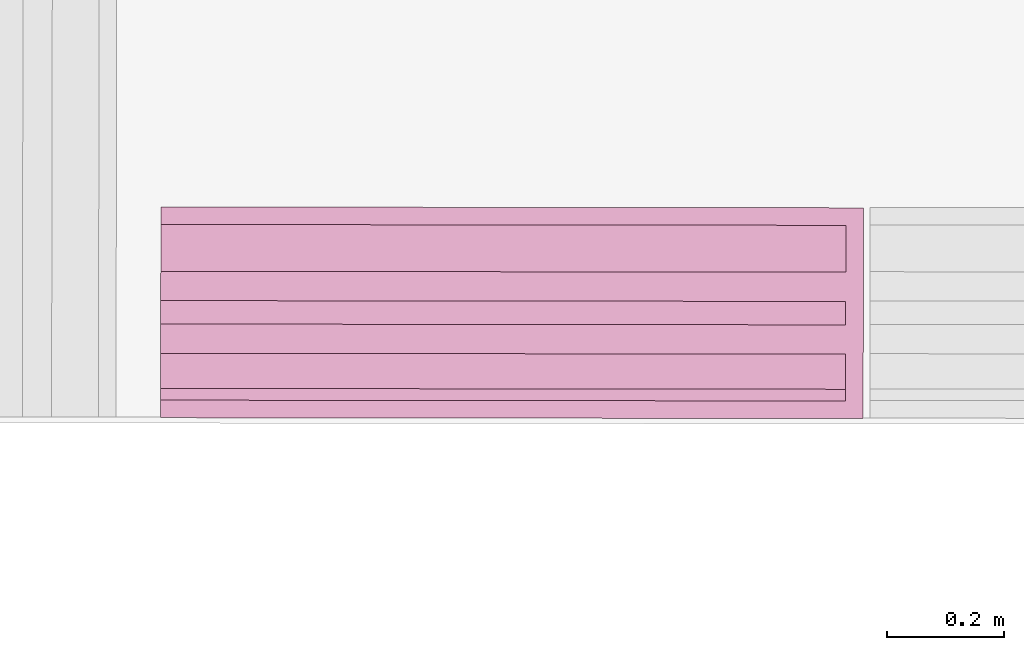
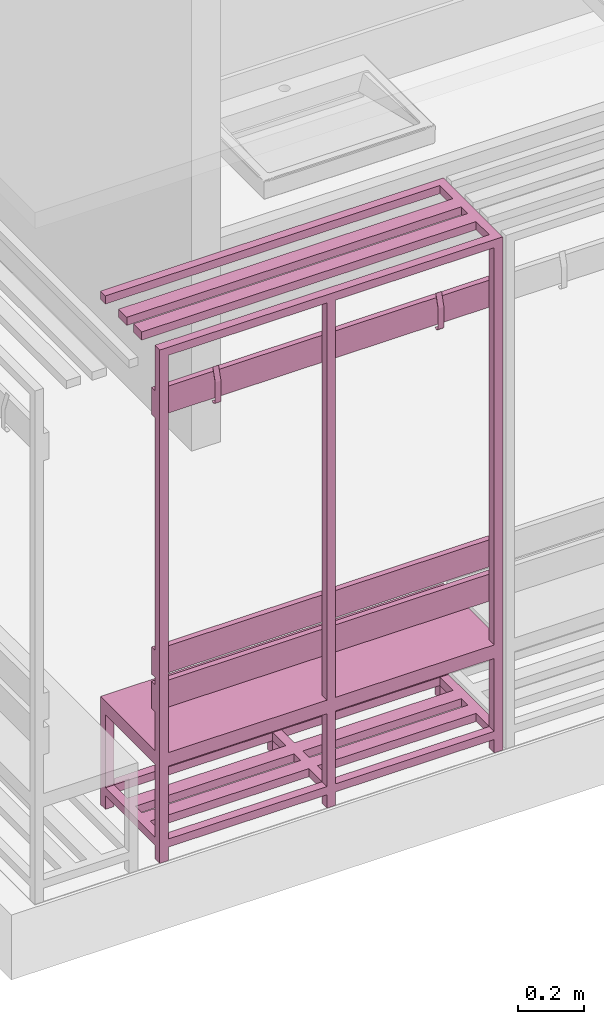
# One storey, part 35 of 43: 1 furnishing.
"""IFC2X3 building model written with IfcOpenShell, lengths in metres."""

import ifcopenshell
import ifcopenshell.guid

model = None  # the IFC model being written
_history = None  # IfcOwnerHistory: only IFC2X3 demands one
_inside = {}  # id of a spatial element -> (the spatial element, [elements in it])
_under = {}  # id of a project, library or spatial element -> (it, [spatial elements below it])
_declared = {}  # id of a project -> (the project, [libraries it declares])
_typed = {}  # id of a type object -> (the type object, [elements of that type])
_made_of = {}  # id of a material, layer set ... -> (it, [elements and type objects made of it])


def new_model(schema):
    """Start an empty IFC model of exactly this schema.

    Asked for "IFC4X3", IfcOpenShell would pick the latest addendum, in which some entities
    have other attributes; the version numbers below select the first issue.
    IFC2X3 requires an IfcOwnerHistory on every rooted entity: one is made here for all.
    """
    global model, _history
    if schema == "IFC4X3":
        model = ifcopenshell.file(schema_version=(4, 3, 0, 0))
    else:
        model = ifcopenshell.file(schema=schema)
    _inside.clear()
    _under.clear()
    _declared.clear()
    _typed.clear()
    _made_of.clear()
    _history = None
    if model.schema == "IFC2X3":
        org = make("IfcOrganization", Name="unknown")
        user = make(
            "IfcPersonAndOrganization",
            ThePerson=make("IfcPerson", FamilyName="unknown"),
            TheOrganization=org,
        )
        app = make(
            "IfcApplication",
            ApplicationDeveloper=org,
            Version="unknown",
            ApplicationFullName="unknown",
            ApplicationIdentifier="unknown",
        )
        _history = make(
            "IfcOwnerHistory",
            OwningUser=user,
            OwningApplication=app,
            ChangeAction="ADDED",
            CreationDate=0,
        )
    return model


def make(cls, **values):
    """One entity of the class cls with the attributes given. An attribute that is None is left unset."""
    return model.create_entity(
        cls, **{name: value for name, value in values.items() if value is not None}
    )


def entity(cls, *values):
    """Any entity or typed value of the class cls, its attributes in the order of the schema. None: left unset."""
    e = model.create_entity(cls)
    for i, value in enumerate(values):
        if value is not None:
            e[i] = value
    return e


def rooted(cls, **values):
    """An entity with a GlobalId (a new one), such as an element, a storey or a relation."""
    return make(cls, GlobalId=ifcopenshell.guid.new(), OwnerHistory=_history, **values)


def si_unit(unit_type, name, prefix=None):
    """IfcSIUnit, for example si_unit("LENGTHUNIT", "METRE", prefix="MILLI")."""
    return make("IfcSIUnit", UnitType=unit_type, Prefix=prefix, Name=name)


def converted_unit(unit_type, name, factor, base, dimensions=None, offset=None):
    """IfcConversionBasedUnit, such as the inch: factor (a typed value) times the base unit."""
    return make(
        "IfcConversionBasedUnit"
        if offset is None
        else "IfcConversionBasedUnitWithOffset",
        ConversionOffset=offset,
        Dimensions=None
        if dimensions is None
        else entity("IfcDimensionalExponents", *dimensions),
        UnitType=unit_type,
        Name=name,
        ConversionFactor=make(
            "IfcMeasureWithUnit", ValueComponent=factor, UnitComponent=base
        ),
    )


def derived_unit(unit_type, elements):
    """IfcDerivedUnit: a product of units, each with its exponent."""
    return make(
        "IfcDerivedUnit",
        Elements=[
            make("IfcDerivedUnitElement", Unit=unit, Exponent=power)
            for unit, power in elements
        ],
        UnitType=unit_type,
    )


def assignment(units):
    """IfcUnitAssignment: the units of a project."""
    return None if units is None else make("IfcUnitAssignment", Units=units)


def point(xyz):
    """IfcCartesianPoint."""
    return None if xyz is None else make("IfcCartesianPoint", Coordinates=xyz)


def direction(xyz):
    """IfcDirection."""
    return None if xyz is None else make("IfcDirection", DirectionRatios=xyz)


def frame(location, z_axis=None, x_axis=None):
    """IfcAxis2Placement3D, a coordinate frame: its origin and axes. An axis left out is left unset."""
    return make(
        "IfcAxis2Placement3D",
        Location=point(location),
        Axis=direction(z_axis),
        RefDirection=direction(x_axis),
    )


def frame_2d(location, x_axis=None):
    """IfcAxis2Placement2D, a coordinate frame in the plane: its origin and x axis."""
    return make(
        "IfcAxis2Placement2D", Location=point(location), RefDirection=direction(x_axis)
    )


def origin():
    """The frame at (0, 0, 0) with its axes left unset."""
    return frame((0.0, 0.0, 0.0))


def origin_2d_with_axis():
    """The frame at (0, 0) in the plane with the x axis (1, 0) written out."""
    return frame_2d((0.0, 0.0), x_axis=(1.0, 0.0))


def place(relative_to, where):
    """IfcLocalPlacement: puts the frame where relative to a parent placement (None: the world)."""
    return make(
        "IfcLocalPlacement", PlacementRelTo=relative_to, RelativePlacement=where
    )


def context(
    kind, dimensions, precision=None, world=None, true_north=None, identifier=None
):
    """IfcGeometricRepresentationContext, for example the 3D "Model" context."""
    return make(
        "IfcGeometricRepresentationContext",
        ContextIdentifier=identifier,
        ContextType=kind,
        CoordinateSpaceDimension=dimensions,
        Precision=precision,
        WorldCoordinateSystem=world,
        TrueNorth=true_north,
    )


def subcontext(parent, identifier, kind, view, scale=None):
    """IfcGeometricRepresentationSubContext, for example "Body" below "Model"."""
    return make(
        "IfcGeometricRepresentationSubContext",
        ContextIdentifier=identifier,
        ContextType=kind,
        ParentContext=parent,
        TargetScale=scale,
        TargetView=view,
    )


def project(units=None, contexts=None):
    """IfcProject with its units and contexts."""
    return rooted(
        "IfcProject",
        Name="project",
        RepresentationContexts=contexts,
        UnitsInContext=assignment(units),
    )


def spatial(cls, under=None, at=None, **own):
    """A site, building, storey or space (cls), placed at a placement, below another one or the project."""
    s = rooted(cls, ObjectPlacement=at, **own)
    if under is not None:
        _under.setdefault(under.id(), (under, []))[1].append(s)
    return s


def polyline(points):
    """IfcPolyline through the points."""
    return make("IfcPolyline", Points=[point(p) for p in points])


def circle_curve(where, radius):
    """IfcCircle in the frame where."""
    return make("IfcCircle", Position=where, Radius=radius)


def parameter(value):
    """IfcParameterValue: where a trimmed curve begins or ends, as a parameter of its basis curve."""
    return model.create_entity("IfcParameterValue", value)


def trimmed(basis, trim1, trim2, sense, master):
    """IfcTrimmedCurve: the piece of a basis curve between two trims."""
    return make(
        "IfcTrimmedCurve",
        BasisCurve=basis,
        Trim1=trim1,
        Trim2=trim2,
        SenseAgreement=sense,
        MasterRepresentation=master,
    )


def segment(curve, same_sense, transition):
    """IfcCompositeCurveSegment."""
    return make(
        "IfcCompositeCurveSegment",
        Transition=transition,
        SameSense=same_sense,
        ParentCurve=curve,
    )


def composite_curve(segments, self_intersect=None):
    """IfcCompositeCurve: segments joined end to end."""
    return make("IfcCompositeCurve", Segments=segments, SelfIntersect=self_intersect)


def profile(cls, at=None, kind="AREA", **sizes):
    """A parametric profile (cls). Its sizes go by their IFC names, for example OverallWidth=200.0."""
    return make(cls, ProfileType=kind, Position=at, **sizes)


def rectangle(**sizes):
    """IfcRectangleProfileDef."""
    return profile("IfcRectangleProfileDef", **sizes)


def outline(outer, holes=None, kind="AREA"):
    """IfcArbitraryClosedProfileDef: a profile drawn as a closed curve; with holes, ...WithVoids."""
    if holes is None:
        return make("IfcArbitraryClosedProfileDef", ProfileType=kind, OuterCurve=outer)
    return make(
        "IfcArbitraryProfileDefWithVoids",
        ProfileType=kind,
        OuterCurve=outer,
        InnerCurves=holes,
    )


def extrude(swept, where, along, depth):
    """IfcExtrudedAreaSolid: the profile swept, set in the frame where, extruded along a direction by depth."""
    return make(
        "IfcExtrudedAreaSolid",
        SweptArea=swept,
        Position=where,
        ExtrudedDirection=direction(along),
        Depth=depth,
    )


def shape(context_of_items, identifier, shape_type, items):
    """IfcShapeRepresentation: the items that make up one representation, for example the "Body"."""
    return make(
        "IfcShapeRepresentation",
        ContextOfItems=context_of_items,
        RepresentationIdentifier=identifier,
        RepresentationType=shape_type,
        Items=items,
    )


def source(mapping_origin, context_of_items, identifier, shape_type, items):
    """IfcRepresentationMap: a shape defined once, which mapped items show again and again."""
    return make(
        "IfcRepresentationMap",
        MappingOrigin=mapping_origin,
        MappedRepresentation=shape(context_of_items, identifier, shape_type, items),
    )


def transform(
    local_origin,
    x_axis=None,
    y_axis=None,
    z_axis=None,
    scale=None,
    scale2=None,
    scale3=None,
    uniform=True,
):
    """IfcCartesianTransformationOperator3D, or its non-uniform kind. x_axis, y_axis, z_axis: its Axis1, 2, 3."""
    if uniform:
        return make(
            "IfcCartesianTransformationOperator3D",
            Axis1=direction(x_axis),
            Axis2=direction(y_axis),
            LocalOrigin=point(local_origin),
            Scale=scale,
            Axis3=direction(z_axis),
        )
    return make(
        "IfcCartesianTransformationOperator3DnonUniform",
        Axis1=direction(x_axis),
        Axis2=direction(y_axis),
        LocalOrigin=point(local_origin),
        Scale=scale,
        Axis3=direction(z_axis),
        Scale2=scale2,
        Scale3=scale3,
    )


def mapped(mapping_source, mapping_target):
    """IfcMappedItem: shows the shape of a source again, moved by a transform."""
    return make(
        "IfcMappedItem", MappingSource=mapping_source, MappingTarget=mapping_target
    )


def material(Name=None, Category=None):
    """IfcMaterial."""
    return make("IfcMaterial", Name=Name, Category=Category)


def material_list(materials):
    """IfcMaterialList."""
    return make("IfcMaterialList", Materials=materials)


def made_of(thing, what):
    """Note that an element or type object is made of a material, layer set ...; save() writes the relation."""
    if what is not None:
        _made_of.setdefault(what.id(), (what, []))[1].append(thing)
    return thing


def type_object(cls, material=None, **own):
    """A type object (cls), such as IfcWallType, which elements share."""
    return made_of(rooted(cls, **own), material)


def type_shapes(of_type, sources):
    """Give a type object the sources (RepresentationMaps) that its elements show as mapped items."""
    of_type.RepresentationMaps = sources


def element(
    cls,
    number,
    at=None,
    inside=None,
    cuts=None,
    type_object=None,
    material=None,
    context=None,
    identifier="Body",
    shape_type=None,
    held_by="IfcProductDefinitionShape",
    body=None,
    shapes=None,
    **own,
):
    """One element of the class cls, such as IfcWall. Its Tag is "e" and its number.

    at: its placement. inside: the storey or other place that contains it. cuts: it is an
    opening in that element (IfcRelVoidsElement). A single representation is given by context,
    identifier, shape_type and body (its items); several are given by shapes. held_by: the class
    of the entity that holds the representations. save() writes the other relations.
    """
    e = rooted(cls, Tag="e%d" % number, ObjectPlacement=at, **own)
    if body is not None:
        shapes = [shape(context, identifier, shape_type, body)]
    if shapes is not None:
        e.Representation = make(held_by, Representations=shapes)
    if inside is not None:
        _inside.setdefault(inside.id(), (inside, []))[1].append(e)
    if cuts is not None:
        rooted(
            "IfcRelVoidsElement", RelatingBuildingElement=cuts, RelatedOpeningElement=e
        )
    if type_object is not None:
        _typed.setdefault(type_object.id(), (type_object, []))[1].append(e)
    return made_of(e, material)


def aggregate(whole, parts):
    """IfcRelAggregates: a whole, such as a stair, and the parts it consists of."""
    return rooted("IfcRelAggregates", RelatingObject=whole, RelatedObjects=parts)


def save(model, path):
    """Write the relations noted so far, then the file.

    IfcRelAggregates (storeys below a building ...), IfcRelContainedInSpatialStructure (elements
    in a storey), IfcRelDefinesByType, IfcRelAssociatesMaterial and IfcRelDeclares: one each for
    every whole, place, type object, material and project.
    """
    for whole, parts in _under.values():
        aggregate(whole, parts)
    for where, things in _inside.values():
        rooted(
            "IfcRelContainedInSpatialStructure",
            RelatedElements=things,
            RelatingStructure=where,
        )
    for kind, things in _typed.values():
        rooted("IfcRelDefinesByType", RelatedObjects=things, RelatingType=kind)
    for what, things in _made_of.values():
        rooted("IfcRelAssociatesMaterial", RelatedObjects=things, RelatingMaterial=what)
    for by, libraries in _declared.values():
        rooted("IfcRelDeclares", RelatingContext=by, RelatedDefinitions=libraries)
    model.write(path)


model = new_model("IFC2X3")

# Units and contexts
model_context = context("Model", 3, precision=1e-05, world=origin(), true_north=direction((6.123233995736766e-17, 1.0)))
body_context = subcontext(model_context, "Body", "Model", "MODEL_VIEW")
ifc_project = project(units=[si_unit("LENGTHUNIT", "METRE"), si_unit("AREAUNIT", "SQUARE_METRE"), converted_unit("PLANEANGLEUNIT", "DEGREE", entity("IfcPlaneAngleMeasure", 0.017453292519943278), si_unit("PLANEANGLEUNIT", "RADIAN"), dimensions=[0, 0, 0, 0, 0, 0, 0]), derived_unit("THERMALTRANSMITTANCEUNIT", [(si_unit("MASSUNIT", "GRAM", prefix="KILO"), 1), (si_unit("THERMODYNAMICTEMPERATUREUNIT", "KELVIN"), -1), (si_unit("TIMEUNIT", "SECOND"), -3)])], contexts=[model_context])

# Site, building, storey
site_placement = place(None, frame((1253.6752467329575, 2072.143113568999, 91.49999999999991), z_axis=(0.0, 0.0, 1.0), x_axis=(0.7237211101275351, 0.6900925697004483, 0.0)))
site = spatial("IfcSite", under=ifc_project, at=site_placement, Name="Surface", CompositionType="ELEMENT")
building_placement = place(site_placement, origin())
building = spatial("IfcBuilding", under=site, at=building_placement, CompositionType="ELEMENT")
storey_placement = place(building_placement, frame((0.0, 0.0, -4.629999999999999)))
storey = spatial("IfcBuildingStorey", under=building, at=storey_placement, Name="rez de rue -1.10m", CompositionType="ELEMENT", Elevation=-4.629999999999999)

# Furnishing
ifc_material_1 = material(Name="Peinture - Grise")
ifc_material_2 = material(Name="<Unnamed>")
ifc_material_3 = material(Name="mat2")
ifc_material_list = material_list([ifc_material_1, ifc_material_2, ifc_material_3])
furniture_type = type_object("IfcFurnitureType", Name="bancpateres:bancpateres", AssemblyPlace="NOTDEFINED", material=ifc_material_list)
shared_shape = source(origin(), body_context, "Body", "SweptSolid", [
    extrude(outline(composite_curve([segment(polyline([(0.022484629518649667, -0.01590042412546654), (0.07301844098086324, -0.01590042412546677)]), True, "CONTINUOUS"), segment(polyline([(0.07301844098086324, -0.01590042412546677), (0.07301844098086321, -0.014900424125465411)]), True, "CONTINUOUS"), segment(polyline([(0.07301844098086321, -0.014900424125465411), (0.02263224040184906, -0.014900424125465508)]), True, "CONTINUOUS"), segment(polyline([(0.02263224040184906, -0.014900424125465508), (-0.04718504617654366, 0.006170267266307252)]), True, "CONTINUOUS"), segment(trimmed(circle_curve(frame_2d((-0.044350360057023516, 0.015562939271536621), x_axis=(0.9573513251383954, -0.28892635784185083)), 0.009811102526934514), [parameter(129.00000000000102)], [parameter(269.9999999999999)], True, "PARAMETER"), False, "CONTINUOUS"), segment(polyline([(-0.048058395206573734, 0.02464634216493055), (-0.04843633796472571, 0.025572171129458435)]), True, "CONTINUOUS"), segment(trimmed(circle_curve(frame_2d((-0.044350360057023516, 0.015562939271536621), x_axis=(0.9573513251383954, -0.28892635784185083)), 0.010811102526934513), [parameter(129.0000000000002)], [parameter(269.9999999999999)], True, "PARAMETER"), True, "CONTINUOUS"), segment(polyline([(-0.04747397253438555, 0.005212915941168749), (0.022484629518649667, -0.01590042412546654)]), True, "CONTINUOUS")], self_intersect=False)), frame((-0.2959329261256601, 0.4912741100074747, 6.308572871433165), z_axis=(1.0, 0.0, 0.0), x_axis=(0.0, -0.28892635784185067, 0.957351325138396)), (0.0, 0.0, 1.0), 0.019999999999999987),
    extrude(outline(composite_curve([segment(polyline([(0.0224846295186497, -0.015900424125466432), (0.07301844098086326, -0.015900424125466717)]), True, "CONTINUOUS"), segment(polyline([(0.07301844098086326, -0.015900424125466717), (0.07301844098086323, -0.014900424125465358)]), True, "CONTINUOUS"), segment(polyline([(0.07301844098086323, -0.014900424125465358), (0.022632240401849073, -0.014900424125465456)]), True, "CONTINUOUS"), segment(polyline([(0.022632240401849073, -0.014900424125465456), (-0.047185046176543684, 0.0061702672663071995)]), True, "CONTINUOUS"), segment(trimmed(circle_curve(frame_2d((-0.0443503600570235, 0.015562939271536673), x_axis=(0.9573513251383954, -0.2889263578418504)), 0.009811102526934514), [parameter(129.00000000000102)], [parameter(269.9999999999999)], True, "PARAMETER"), False, "CONTINUOUS"), segment(polyline([(-0.04805839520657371, 0.024646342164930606), (-0.0484363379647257, 0.02557217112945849)]), True, "CONTINUOUS"), segment(trimmed(circle_curve(frame_2d((-0.0443503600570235, 0.015562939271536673), x_axis=(0.9573513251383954, -0.2889263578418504)), 0.010811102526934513), [parameter(129.0000000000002)], [parameter(269.9999999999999)], True, "PARAMETER"), True, "CONTINUOUS"), segment(polyline([(-0.04747397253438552, 0.005212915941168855), (0.0224846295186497, -0.015900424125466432)]), True, "CONTINUOUS")], self_intersect=False)), frame((0.09406707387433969, 0.4912741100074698, 6.308572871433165), z_axis=(1.0, 0.0, 0.0), x_axis=(0.0, -0.28892635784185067, 0.957351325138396)), (0.0, 0.0, 1.0), 0.020000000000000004),
    extrude(outline(composite_curve([segment(polyline([(0.022484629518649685, -0.015900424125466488), (0.07301844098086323, -0.01590042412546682)]), True, "CONTINUOUS"), segment(polyline([(0.07301844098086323, -0.01590042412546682), (0.07301844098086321, -0.014900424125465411)]), True, "CONTINUOUS"), segment(polyline([(0.07301844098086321, -0.014900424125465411), (0.02263224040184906, -0.014900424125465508)]), True, "CONTINUOUS"), segment(polyline([(0.02263224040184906, -0.014900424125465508), (-0.047185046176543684, 0.0061702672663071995)]), True, "CONTINUOUS"), segment(trimmed(circle_curve(frame_2d((-0.044350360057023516, 0.015562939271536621), x_axis=(0.9573513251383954, -0.2889263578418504)), 0.009811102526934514), [parameter(129.00000000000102)], [parameter(269.9999999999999)], True, "PARAMETER"), False, "CONTINUOUS"), segment(polyline([(-0.04805839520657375, 0.024646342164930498), (-0.04843633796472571, 0.025572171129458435)]), True, "CONTINUOUS"), segment(trimmed(circle_curve(frame_2d((-0.044350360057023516, 0.015562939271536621), x_axis=(0.9573513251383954, -0.2889263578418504)), 0.010811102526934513), [parameter(129.0000000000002)], [parameter(269.9999999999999)], True, "PARAMETER"), True, "CONTINUOUS"), segment(polyline([(-0.04747397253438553, 0.005212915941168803), (0.022484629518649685, -0.015900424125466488)]), True, "CONTINUOUS")], self_intersect=False)), frame((-0.6859329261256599, 0.49127411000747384, 6.308572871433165), z_axis=(1.0, 0.0, 0.0), x_axis=(0.0, -0.28892635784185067, 0.957351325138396)), (0.0, 0.0, 1.0), 0.020000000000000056),
    extrude(rectangle(XDim=0.030000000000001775, YDim=0.3599999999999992, at=frame_2d((-6.774095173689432e-16, 5.412337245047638e-16), x_axis=(1.0, 0.0))), frame((-0.2859329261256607, 0.33000000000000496, 4.679999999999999), z_axis=(0.0, 0.0, 1.0), x_axis=(-1.0, 0.0, 0.0)), (0.0, 0.0, 1.0), 0.03),
    extrude(rectangle(XDim=0.020000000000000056, YDim=1.1999999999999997, at=origin_2d_with_axis()), frame((-0.28593292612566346, 0.470000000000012, 6.261999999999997), z_axis=(0.0, 0.0, 1.0), x_axis=(0.0, 1.0, 0.0)), (0.0, 0.0, 1.0), 0.1),
    extrude(rectangle(XDim=0.01999999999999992, YDim=1.1999999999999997, at=origin_2d_with_axis()), frame((-0.28593292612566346, 0.4700000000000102, 5.300999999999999), z_axis=(0.0, 0.0, 1.0), x_axis=(0.0, 1.0, 0.0)), (0.0, 0.0, 1.0), 0.09999999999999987),
    extrude(rectangle(XDim=0.020000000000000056, YDim=1.1999999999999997, at=origin_2d_with_axis()), frame((-0.28593292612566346, 0.47000000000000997, 5.173999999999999), z_axis=(0.0, 0.0, 1.0), x_axis=(0.0, 1.0, 0.0)), (0.0, 0.0, 1.0), 0.09999999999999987),
    extrude(rectangle(XDim=0.030000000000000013, YDim=0.02999999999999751, at=frame_2d((3.382710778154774e-17, 0.0), x_axis=(1.0, 0.0))), frame((-0.2859329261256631, 0.495000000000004, 4.629999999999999), z_axis=(0.0, 0.0, 1.0), x_axis=(0.0, 1.0, 0.0)), (0.0, 0.0, 1.0), 1.9000000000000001),
    extrude(rectangle(XDim=0.02999999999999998, YDim=0.02999999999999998, at=frame_2d((-1.734723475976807e-17, 1.734723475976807e-17), x_axis=(1.0, 0.0))), frame((-0.28593292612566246, 0.16500000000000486, 4.629999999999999), z_axis=(0.0, 0.0, 1.0), x_axis=(0.0, 1.0, 0.0)), (0.0, 0.0, 1.0), 0.38000000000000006),
    extrude(rectangle(XDim=0.1, YDim=1.1999999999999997, at=origin_2d_with_axis()), frame((-0.2859329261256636, 0.46000000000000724, 5.009999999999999), z_axis=(0.0, 0.0, 1.0), x_axis=(0.0, 1.0, 0.0)), (0.0, 0.0, 1.0), 0.019999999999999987),
    extrude(rectangle(XDim=0.1, YDim=1.1999999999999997, at=origin_2d_with_axis()), frame((-0.2859329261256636, 0.40000000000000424, 5.009999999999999), z_axis=(0.0, 0.0, 1.0), x_axis=(0.0, 1.0, 0.0)), (0.0, 0.0, 1.0), 0.019999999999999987),
    extrude(rectangle(XDim=0.10000000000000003, YDim=1.1999999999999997, at=frame_2d((-1.734723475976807e-17, 0.0), x_axis=(1.0, 0.0))), frame((-0.2859329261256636, 0.3000000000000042, 5.009999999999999), z_axis=(0.0, 0.0, 1.0), x_axis=(0.0, 1.0, 0.0)), (0.0, 0.0, 1.0), 0.019999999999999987),
    extrude(rectangle(XDim=0.1, YDim=1.1999999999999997, at=origin_2d_with_axis()), frame((-0.2859329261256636, 0.20000000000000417, 5.009999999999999), z_axis=(0.0, 0.0, 1.0), x_axis=(0.0, 1.0, 0.0)), (0.0, 0.0, 1.0), 0.019999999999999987),
    extrude(rectangle(XDim=0.029999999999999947, YDim=0.36000000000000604, at=frame_2d((6.765421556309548e-17, 0.0), x_axis=(1.0, 0.0))), frame((-0.8709329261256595, 0.3300000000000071, 4.979999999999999), z_axis=(0.0, 0.0, 1.0), x_axis=(-1.0, 0.0, 0.0)), (0.0, 0.0, 1.0), 0.030000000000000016),
    extrude(rectangle(XDim=0.03000000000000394, YDim=0.360000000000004, at=origin_2d_with_axis()), frame((0.29906707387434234, 0.3299999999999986, 4.979999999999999), z_axis=(0.0, 0.0, 1.0), x_axis=(-1.0, 0.0, 0.0)), (0.0, 0.0, 1.0), 0.030000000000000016),
    extrude(rectangle(XDim=0.030000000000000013, YDim=1.1999999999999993, at=frame_2d((-3.382710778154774e-17, 0.0), x_axis=(1.0, 0.0))), frame((-0.28593292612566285, 0.49500000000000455, 4.979999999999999), z_axis=(0.0, 0.0, 1.0), x_axis=(0.0, 1.0, 0.0)), (0.0, 0.0, 1.0), 0.030000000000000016),
    extrude(rectangle(XDim=0.02999999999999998, YDim=1.2000000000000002, at=frame_2d((-1.734723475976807e-17, 0.0), x_axis=(1.0, 0.0))), frame((-0.2859329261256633, 0.16500000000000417, 4.979999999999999), z_axis=(0.0, 0.0, 1.0), x_axis=(0.0, 1.0, 0.0)), (0.0, 0.0, 1.0), 0.030000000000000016),
    extrude(rectangle(XDim=0.030000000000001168, YDim=0.36000000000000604, at=origin_2d_with_axis()), frame((-0.8709329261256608, 0.3300000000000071, 4.679999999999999), z_axis=(0.0, 0.0, 1.0), x_axis=(-1.0, 0.0, 0.0)), (0.0, 0.0, 1.0), 0.03),
    extrude(rectangle(XDim=0.029999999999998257, YDim=0.36000000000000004, at=origin_2d_with_axis()), frame((0.29906707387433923, 0.3300000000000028, 4.679999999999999), z_axis=(0.0, 0.0, 1.0), x_axis=(-1.0, 0.0, 0.0)), (0.0, 0.0, 1.0), 0.03),
    extrude(rectangle(XDim=1.1999999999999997, YDim=0.04999999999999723, at=origin_2d_with_axis()), frame((-0.28593292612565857, 0.28500000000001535, 4.679999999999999), z_axis=(0.0, 0.0, 1.0), x_axis=(-1.0, 0.0, 0.0)), (0.0, 0.0, 1.0), 0.03),
    extrude(rectangle(XDim=1.1999999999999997, YDim=0.0499999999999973, at=frame_2d((5.551115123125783e-17, 3.469446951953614e-17), x_axis=(1.0, 0.0))), frame((-0.2859329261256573, 0.3750000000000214, 4.679999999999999), z_axis=(0.0, 0.0, 1.0), x_axis=(-1.0, 0.0, 0.0)), (0.0, 0.0, 1.0), 0.03),
    extrude(rectangle(XDim=0.030000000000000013, YDim=1.1999999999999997, at=frame_2d((-3.382710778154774e-17, 0.0), x_axis=(1.0, 0.0))), frame((-0.2859329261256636, 0.49500000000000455, 4.679999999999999), z_axis=(0.0, 0.0, 1.0), x_axis=(0.0, 1.0, 0.0)), (0.0, 0.0, 1.0), 0.03),
    extrude(rectangle(XDim=0.02999999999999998, YDim=1.1999999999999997, at=frame_2d((-1.734723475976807e-17, 0.0), x_axis=(1.0, 0.0))), frame((-0.2859329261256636, 0.16500000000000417, 4.679999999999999), z_axis=(0.0, 0.0, 1.0), x_axis=(0.0, 1.0, 0.0)), (0.0, 0.0, 1.0), 0.03),
    extrude(rectangle(XDim=0.030000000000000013, YDim=0.030000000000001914, at=frame_2d((3.382710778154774e-17, 3.382710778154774e-17), x_axis=(1.0, 0.0))), frame((0.29906707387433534, 0.4950000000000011, 4.629999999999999), z_axis=(0.0, 0.0, 1.0), x_axis=(0.0, 1.0, 0.0)), (0.0, 0.0, 1.0), 1.9000000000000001),
    extrude(rectangle(XDim=0.02999999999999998, YDim=0.030000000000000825, at=frame_2d((-1.734723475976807e-17, 3.382710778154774e-17), x_axis=(1.0, 0.0))), frame((0.29906707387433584, 0.16500000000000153, 4.629999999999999), z_axis=(0.0, 0.0, 1.0), x_axis=(0.0, 1.0, 0.0)), (0.0, 0.0, 1.0), 0.38000000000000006),
    extrude(rectangle(XDim=0.030000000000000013, YDim=0.029999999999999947, at=frame_2d((3.382710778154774e-17, 0.0), x_axis=(1.0, 0.0))), frame((-0.8709329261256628, 0.49500000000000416, 4.629999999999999), z_axis=(0.0, 0.0, 1.0), x_axis=(0.0, 1.0, 0.0)), (0.0, 0.0, 1.0), 1.9000000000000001),
    extrude(rectangle(XDim=0.02999999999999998, YDim=0.029999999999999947, at=frame_2d((-1.734723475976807e-17, 0.0), x_axis=(1.0, 0.0))), frame((-0.8709329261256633, 0.16500000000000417, 4.629999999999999), z_axis=(0.0, 0.0, 1.0), x_axis=(0.0, 1.0, 0.0)), (0.0, 0.0, 1.0), 0.38000000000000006),
    extrude(rectangle(XDim=0.029999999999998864, YDim=0.3600000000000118, at=frame_2d((6.765421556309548e-17, 0.0), x_axis=(1.0, 0.0))), frame((-0.8709329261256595, 0.33000000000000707, 6.499999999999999), z_axis=(0.0, 0.0, 1.0), x_axis=(-1.0, 0.0, 0.0)), (0.0, 0.0, 1.0), 0.029999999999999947),
    extrude(rectangle(XDim=1.1999999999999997, YDim=0.049999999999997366, at=frame_2d((0.0, 3.469446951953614e-17), x_axis=(1.0, 0.0))), frame((-0.285932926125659, 0.2850000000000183, 6.499999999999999), z_axis=(0.0, 0.0, 1.0), x_axis=(-1.0, 0.0, 0.0)), (0.0, 0.0, 1.0), 0.029999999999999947),
    extrude(rectangle(XDim=1.1999999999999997, YDim=0.0499999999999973, at=frame_2d((-5.551115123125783e-17, -3.469446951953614e-17), x_axis=(1.0, 0.0))), frame((-0.2859329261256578, 0.37500000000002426, 6.499999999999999), z_axis=(0.0, 0.0, 1.0), x_axis=(-1.0, 0.0, 0.0)), (0.0, 0.0, 1.0), 0.029999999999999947),
    extrude(rectangle(XDim=0.030000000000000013, YDim=1.1999999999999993, at=frame_2d((3.382710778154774e-17, 0.0), x_axis=(1.0, 0.0))), frame((-0.2859329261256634, 0.4950000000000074, 6.499999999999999), z_axis=(0.0, 0.0, 1.0), x_axis=(0.0, 1.0, 0.0)), (0.0, 0.0, 1.0), 0.029999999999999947),
    extrude(rectangle(XDim=0.02999999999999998, YDim=1.1999999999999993, at=frame_2d((-1.734723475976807e-17, 0.0), x_axis=(1.0, 0.0))), frame((-0.2859329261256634, 0.16500000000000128, 6.499999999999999), z_axis=(0.0, 0.0, 1.0), x_axis=(0.0, 1.0, 0.0)), (0.0, 0.0, 1.0), 0.029999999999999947),
])
type_shapes(furniture_type, [shared_shape])
furnishing_placement = place(storey_placement, frame((160.96342898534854, 0.8858416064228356, -4.629999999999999), z_axis=(0.0, 0.0, 1.0), x_axis=(-0.7228702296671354, 0.6909838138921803, 0.0)))
element("IfcFurnishingElement", 1, at=furnishing_placement, inside=storey, type_object=furniture_type, material=ifc_material_list, Name="bancpateres:bancpateres", ObjectType="bancpateres:bancpateres", context=body_context, shape_type="MappedRepresentation", body=[
    mapped(shared_shape, transform((0.0, 0.0, 0.0), scale=1.0)),
])

save(model, "model.ifc")
